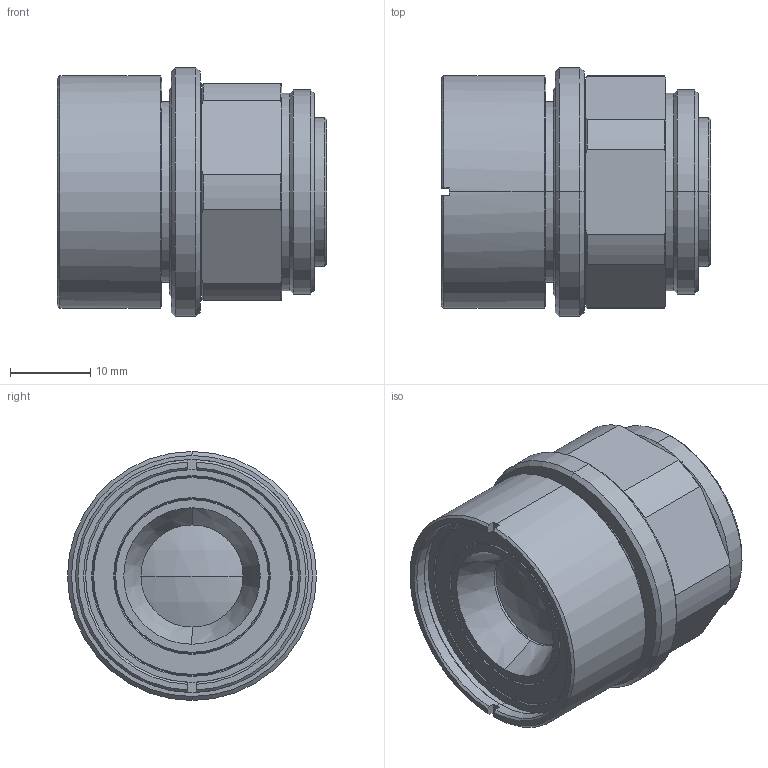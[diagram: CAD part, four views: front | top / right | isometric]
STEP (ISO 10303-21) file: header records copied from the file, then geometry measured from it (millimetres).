
FILE_DESCRIPTION (( 'STEP AP203' ), '1' );
FILE_NAME ('VS-MCA15.STEP', '2017-09-07T10:32:07', ( '' ), ( '' ), 'SwSTEP 2.0', 'SolidWorks 2017', '' );
FILE_SCHEMA (( 'CONFIG_CONTROL_DESIGN' ));
Length unit declared in the file: millimetre
Products named in the file (1): VS-MCA15
Bounding box: 33.5 x 31 x 31 mm (x, y, z)
Volume: 17832.4 mm3; surface area: 6174.8 mm2
Topology: 1 solids, 1 shells, 129 faces, 296 edges, 184 vertices
Faces by surface type: cone 66, cylinder 30, plane 29, sphere 4
Entity records: 3769 total; most frequent: CARTESIAN_POINT 706, DIRECTION 674, ORIENTED_EDGE 592, EDGE_CURVE 296, AXIS2_PLACEMENT_3D 280, VERTEX_POINT 184, CIRCLE 150, EDGE_LOOP 144
